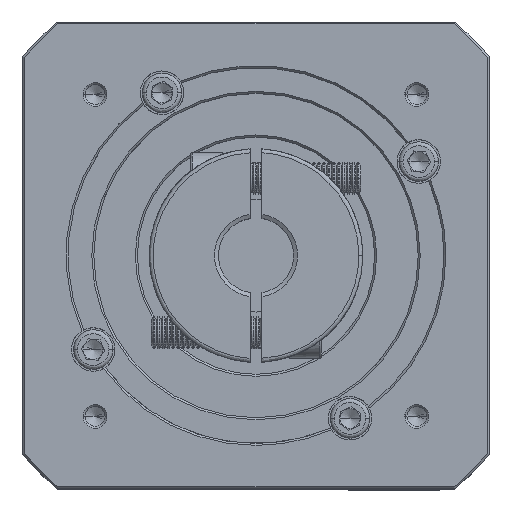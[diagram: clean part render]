
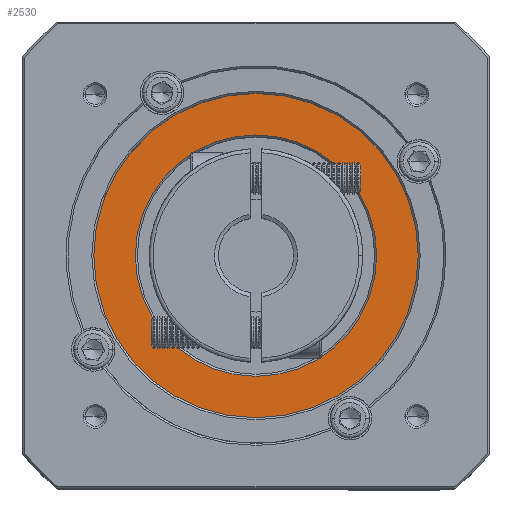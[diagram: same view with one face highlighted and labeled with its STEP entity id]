
A CAD part, top view. The second image highlights one B-rep face of the part: STEP entity #2530.
In plain terms, the highlighted planar face has unit normal (0, 0, 1).
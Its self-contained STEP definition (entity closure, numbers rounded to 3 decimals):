
#748 = CIRCLE ( 'NONE', #92812, 41. ) ;
#1490 = ORIENTED_EDGE ( 'NONE', *, *, #89901, .T. ) ;
#2530 = ADVANCED_FACE ( 'NONE', ( #75129, #82187 ), #108398, .T. ) ;
#5778 = CIRCLE ( 'NONE', #46773, 41. ) ;
#12398 = VERTEX_POINT ( 'NONE', #29227 ) ;
#19262 = DIRECTION ( 'NONE',  ( 1., 0., 0. ) ) ;
#22133 = CIRCLE ( 'NONE', #115287, 30.5 ) ;
#27697 = EDGE_CURVE ( 'NONE', #107072, #81464, #5778, .T. ) ;
#29227 = CARTESIAN_POINT ( 'NONE',  ( 101.885, -25.685, 122.5 ) ) ;
#29858 = DIRECTION ( 'NONE',  ( 0., 0., -1. ) ) ;
#31643 = CIRCLE ( 'NONE', #63075, 30.5 ) ;
#31798 = DIRECTION ( 'NONE',  ( 0., 0., 1. ) ) ;
#35056 = ORIENTED_EDGE ( 'NONE', *, *, #27697, .T. ) ;
#39311 = DIRECTION ( 'NONE',  ( 1., 0., 0. ) ) ;
#41498 = CARTESIAN_POINT ( 'NONE',  ( 40.885, -25.685, 122.5 ) ) ;
#46773 = AXIS2_PLACEMENT_3D ( 'NONE', #48484, #92765, #83102 ) ;
#48484 = CARTESIAN_POINT ( 'NONE',  ( 71.385, -25.685, 122.5 ) ) ;
#51484 = CARTESIAN_POINT ( 'NONE',  ( 112.385, -25.685, 122.5 ) ) ;
#58732 = ORIENTED_EDGE ( 'NONE', *, *, #69434, .T. ) ;
#59022 = EDGE_CURVE ( 'NONE', #12398, #93517, #31643, .T. ) ;
#63075 = AXIS2_PLACEMENT_3D ( 'NONE', #109735, #109361, #39311 ) ;
#68822 = EDGE_LOOP ( 'NONE', ( #107296, #58732 ) ) ;
#69180 = EDGE_LOOP ( 'NONE', ( #1490, #35056 ) ) ;
#69434 = EDGE_CURVE ( 'NONE', #93517, #12398, #22133, .T. ) ;
#72931 = CARTESIAN_POINT ( 'NONE',  ( 71.385, -25.685, 122.5 ) ) ;
#75129 = FACE_OUTER_BOUND ( 'NONE', #69180, .T. ) ;
#75914 = AXIS2_PLACEMENT_3D ( 'NONE', #72931, #108007, #19262 ) ;
#81464 = VERTEX_POINT ( 'NONE', #51484 ) ;
#82187 = FACE_BOUND ( 'NONE', #68822, .T. ) ;
#83102 = DIRECTION ( 'NONE',  ( 1., 0., 0. ) ) ;
#83542 = CARTESIAN_POINT ( 'NONE',  ( 71.385, -25.685, 122.5 ) ) ;
#85097 = CARTESIAN_POINT ( 'NONE',  ( 71.385, -25.685, 122.5 ) ) ;
#89901 = EDGE_CURVE ( 'NONE', #81464, #107072, #748, .T. ) ;
#92765 = DIRECTION ( 'NONE',  ( 0., 0., 1. ) ) ;
#92812 = AXIS2_PLACEMENT_3D ( 'NONE', #85097, #31798, #94007 ) ;
#93517 = VERTEX_POINT ( 'NONE', #41498 ) ;
#94007 = DIRECTION ( 'NONE',  ( 1., 0., 0. ) ) ;
#99896 = DIRECTION ( 'NONE',  ( 1., 0., 0. ) ) ;
#106285 = CARTESIAN_POINT ( 'NONE',  ( 30.385, -25.685, 122.5 ) ) ;
#107072 = VERTEX_POINT ( 'NONE', #106285 ) ;
#107296 = ORIENTED_EDGE ( 'NONE', *, *, #59022, .T. ) ;
#108007 = DIRECTION ( 'NONE',  ( 0., 0., 1. ) ) ;
#108398 = PLANE ( 'NONE',  #75914 ) ;
#109361 = DIRECTION ( 'NONE',  ( 0., 0., -1. ) ) ;
#109735 = CARTESIAN_POINT ( 'NONE',  ( 71.385, -25.685, 122.5 ) ) ;
#115287 = AXIS2_PLACEMENT_3D ( 'NONE', #83542, #29858, #99896 ) ;
